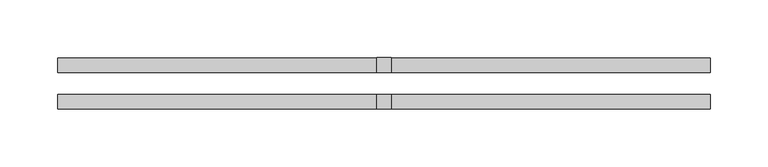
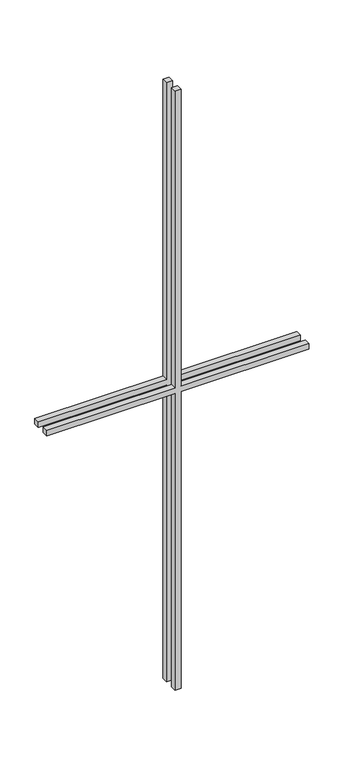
"""IFC4 building model written with IfcOpenShell, lengths in millimetres: proxy geometry, M_Vzor mezilehlého svislého vlysu_2x2 : M_Vzor mezilehlého svislého vlysu_2x2."""

from ifc_helpers import new_model, si_unit, frame, origin, place, context, project, spatial, polyline, outline, extrude, source, transform, mapped, element, save


def generic_models_71f8651e(model_context):
    return source(origin(), model_context, "Body", "SweptSolid", [
        extrude(outline(polyline([(686.5, -6.35), (686.5, -281.7375), (673.8, -281.7375), (673.8, -6.35), (0.0, -6.35), (0.0, 6.35), (673.8, 6.35), (673.8, 281.7375), (686.5, 281.7375), (686.5, 6.35), (1360.3, 6.35), (1360.3, -6.35), (686.5, -6.35)])), frame((0.0, 9.525, 0.0), z_axis=(0.0, 1.0, 0.0), x_axis=(0.0, 0.0, 1.0)), (0.0, 0.0, 1.0), 12.7),
        extrude(outline(polyline([(686.5, -6.35), (686.5, -281.7375), (673.8, -281.7375), (673.8, -6.35), (0.0, -6.35), (0.0, 6.35), (673.8, 6.35), (673.8, 281.7375), (686.5, 281.7375), (686.5, 6.35), (1360.3, 6.35), (1360.3, -6.35), (686.5, -6.35)])), frame((0.0, -22.225, 0.0), z_axis=(0.0, 1.0, 0.0), x_axis=(0.0, 0.0, 1.0)), (0.0, 0.0, 1.0), 12.7),
    ])


if __name__ == "__main__":
    model = new_model("IFC4")
    model_context = context("Model", 3, world=origin())
    ifc_project = project(units=[si_unit("LENGTHUNIT", "METRE", prefix="MILLI")], contexts=[model_context])
    site = spatial("IfcSite", under=ifc_project)
    building = spatial("IfcBuilding", under=site)
    placement = place(None, origin())
    generic_models_shape = generic_models_71f8651e(model_context)
    element("IfcBuildingElementProxy", 1, Name="M_Vzor mezilehlého svislého vlysu_2x2 : M_Vzor mezilehlého svislého vlysu_2x2", ObjectType="M_Vzor mezilehlého svislého vlysu_2x2 : M_Vzor mezilehlého svislého vlysu_2x2", at=placement, inside=building, context=model_context, shape_type="MappedRepresentation", body=[
        mapped(generic_models_shape, transform((0.0, 0.0, 0.0), x_axis=(1.0, 0.0, 0.0), y_axis=(0.0, 1.0, 0.0), z_axis=(0.0, 0.0, 1.0))),
    ])
    save(model, "model.ifc")
